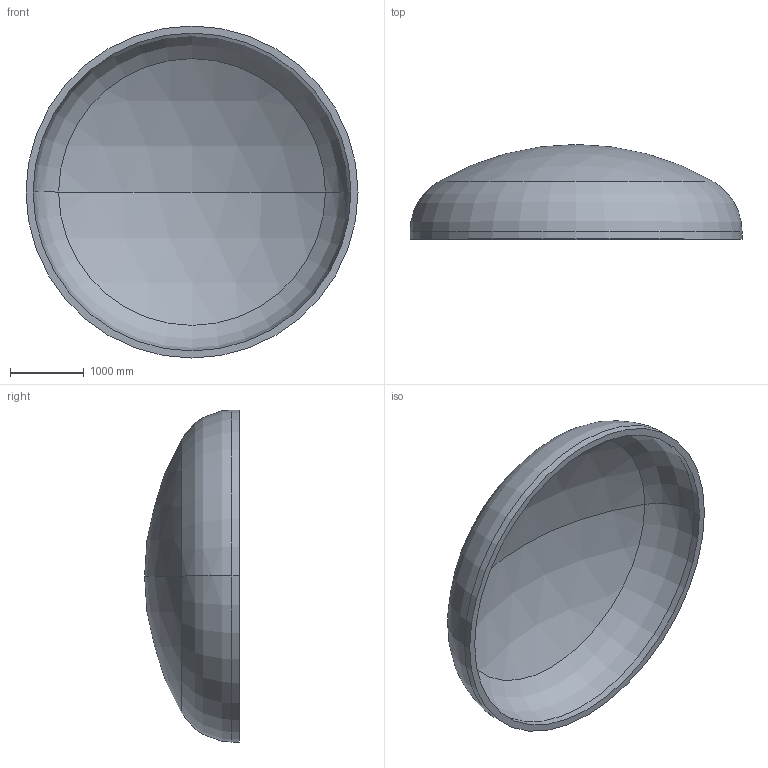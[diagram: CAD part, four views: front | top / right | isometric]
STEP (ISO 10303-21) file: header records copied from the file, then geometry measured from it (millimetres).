
FILE_DESCRIPTION (( 'STEP AP203' ), '1' );
FILE_NAME ('DIN 28013 Korbbogenform_-_Boden DIN 28013 - 4500 x 100 - I - s=96.step', '2016-07-01T23:49:45', ( '' ), ( '' ), 'SwSTEP 2.0', 'SolidWorks 2013', '' );
FILE_SCHEMA (( 'CONFIG_CONTROL_DESIGN' ));
Length unit declared in the file: millimetre
Products named in the file (1): DIN 28013 Korbbogenform_-_Boden DIN 28013 - 4500 x 100 - I - s=96
Bounding box: 4500 x 1283.96 x 4500 mm (x, y, z)
Volume: 2190108242.4 mm3; surface area: 46974755.9 mm2
Topology: 1 solids, 1 shells, 13 faces, 24 edges, 14 vertices
Faces by surface type: torus 4, cylinder 4, sphere 4, plane 1
Entity records: 407 total; most frequent: DIRECTION 72, CARTESIAN_POINT 52, ORIENTED_EDGE 48, AXIS2_PLACEMENT_3D 34, EDGE_CURVE 24, CIRCLE 20, EDGE_LOOP 14, VERTEX_POINT 14
